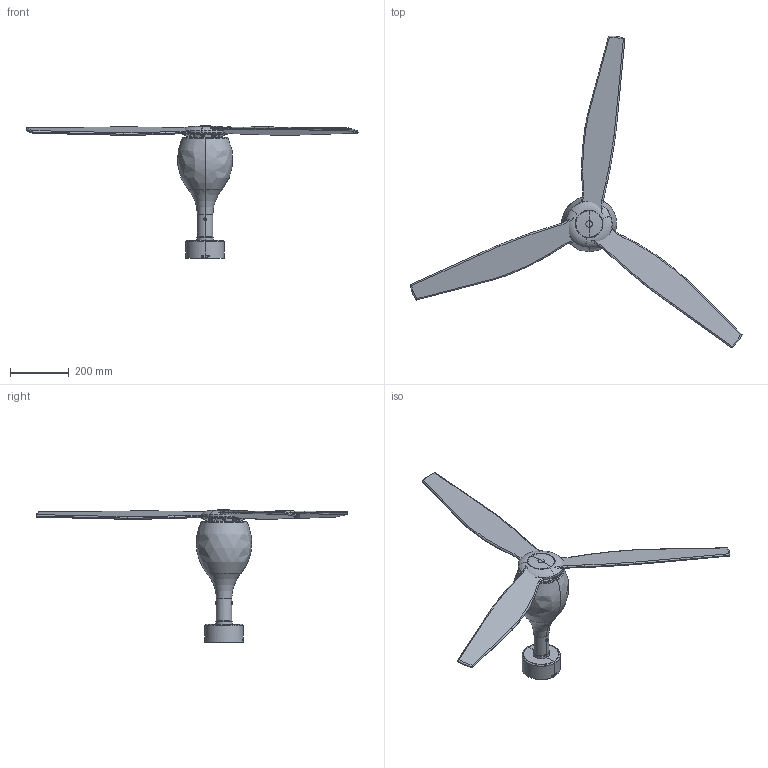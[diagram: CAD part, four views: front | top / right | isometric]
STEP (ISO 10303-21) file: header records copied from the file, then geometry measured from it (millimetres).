
FILE_DESCRIPTION(/* description */ (''),/* implementation_level */ '2;1');
FILE_NAME(/* name */ 'C:\Users\Franco Sartori E\Documents\FARO\DUPLICADO\Modelos\01_Digitalizados\PRIORIZACION 2D\0_ETERFAN\03_Publicación\32025W.stp',/* time_stamp */ '2020-12-04T13:39:40+01:00',/* author */ ('Franco Sartori E'),/* organization */ (''),/* preprocessor_version */ 'ST-DEVELOPER v18.1',/* originating_system */ 'AutoCAD Mechanical',/* authorisation */ '');
FILE_SCHEMA (('AUTOMOTIVE_DESIGN { 1 0 10303 214 3 1 1 }'));
Length unit declared in the file: millimetre
Products named in the file (2): Product; miniETERFAN - FAN-464285-_3D_
Assembly tree (1 placements, depth 2):
  Product
    miniETERFAN - FAN-464285-_3D_
Bounding box: 1127.17 x 1058.55 x 450.54 mm (x, y, z)
Volume: 2972548.4 mm3; surface area: 872888.6 mm2
Topology: 22 solids, 23 shells, 660 faces, 1671 edges, 1050 vertices
Faces by surface type: plane 198, cylinder 195, torus 153, bspline 74, cone 34, sphere 6
Entity records: 29427 total; most frequent: CARTESIAN_POINT 14862, ORIENTED_EDGE 3254, DIRECTION 2524, EDGE_CURVE 1671, VERTEX_POINT 1050, AXIS2_PLACEMENT_3D 989, B_SPLINE_CURVE_WITH_KNOTS 723, EDGE_LOOP 717
